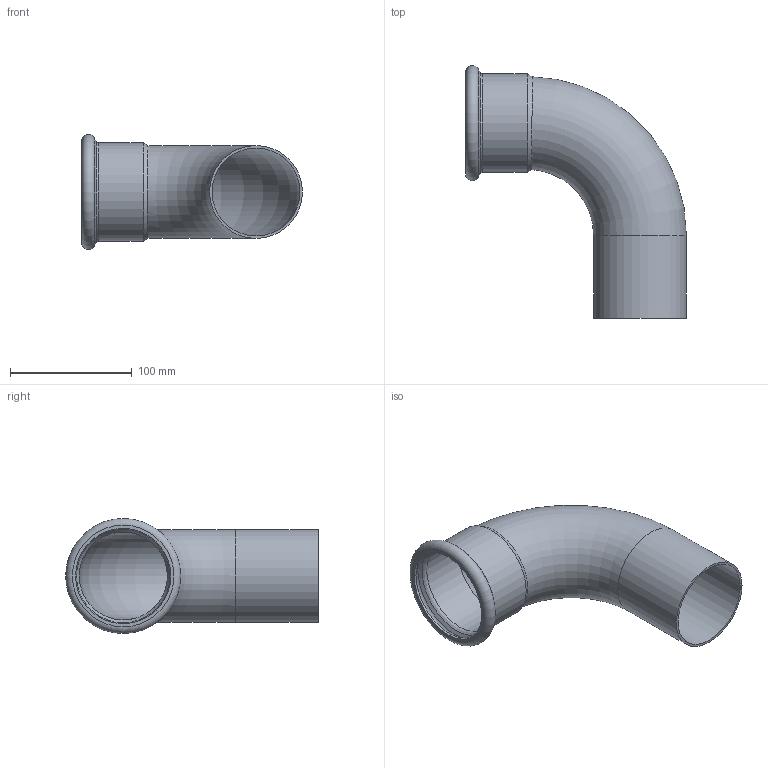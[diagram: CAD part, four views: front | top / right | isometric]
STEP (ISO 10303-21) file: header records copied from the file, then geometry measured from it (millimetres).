
FILE_DESCRIPTION((''),'2;1');
FILE_NAME('G:\Technics\CAD\Bauteile\076\69001A76(2).stp','2008-03-07T13:07:54',('herberg'),(''),'Autodesk Inventor 2008','Autodesk Inventor 2008','');
FILE_SCHEMA(('AUTOMOTIVE_DESIGN { 1 0 10303 214 1 1 1 1 }'));
Length unit declared in the file: millimetre
Products named in the file (1): 69001A76(2)
Bounding box: 181.05 x 207.15 x 94.3 mm (x, y, z)
Volume: 129106.8 mm3; surface area: 130071.4 mm2
Topology: 1 solids, 1 shells, 18 faces, 37 edges, 22 vertices
Faces by surface type: cylinder 5, cone 4, torus 4, plane 3, bspline 2
Full cylindrical faces by diameter (mm): 72.1 x1, 76.1 x1, 76.6 x1, 78 x1, 80.6 x1
Entity records: 542 total; most frequent: CARTESIAN_POINT 217, DIRECTION 66, ORIENTED_EDGE 36, EDGE_LOOP 36, AXIS2_PLACEMENT_3D 33, VERTEX_POINT 18, EDGE_CURVE 18, FACE_OUTER_BOUND 18
